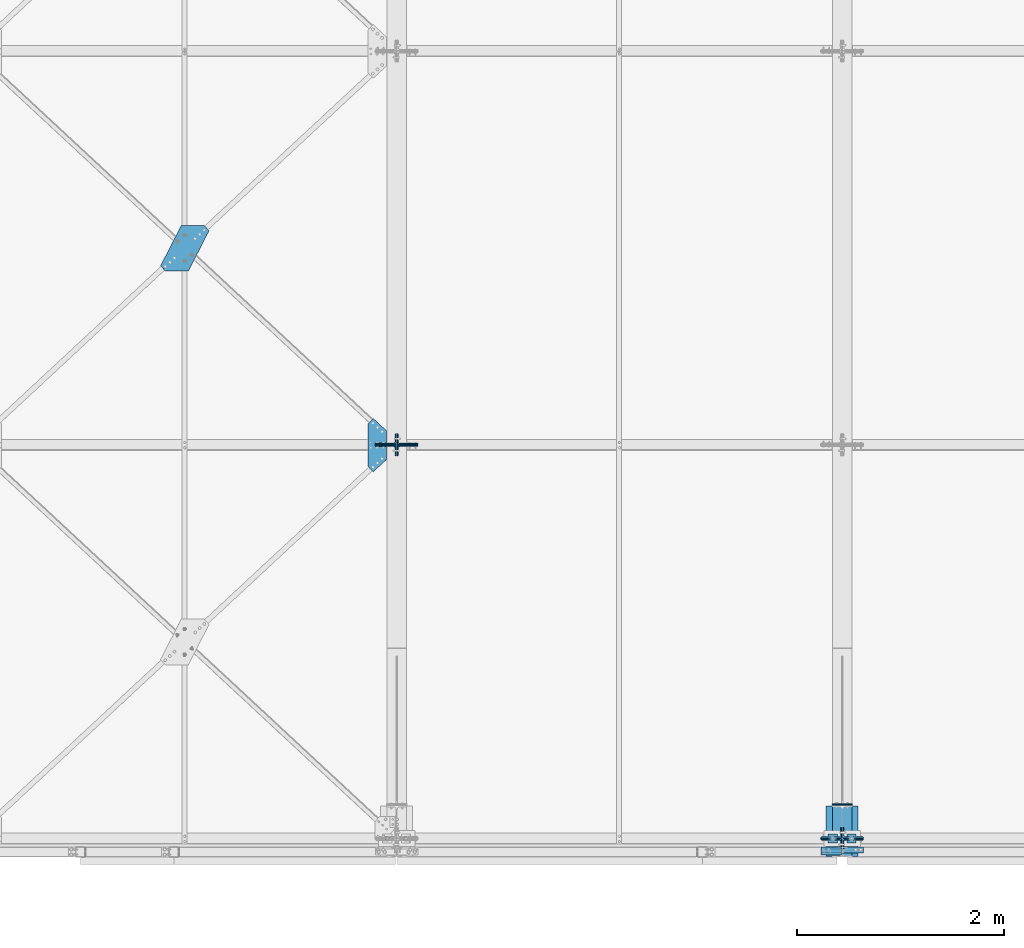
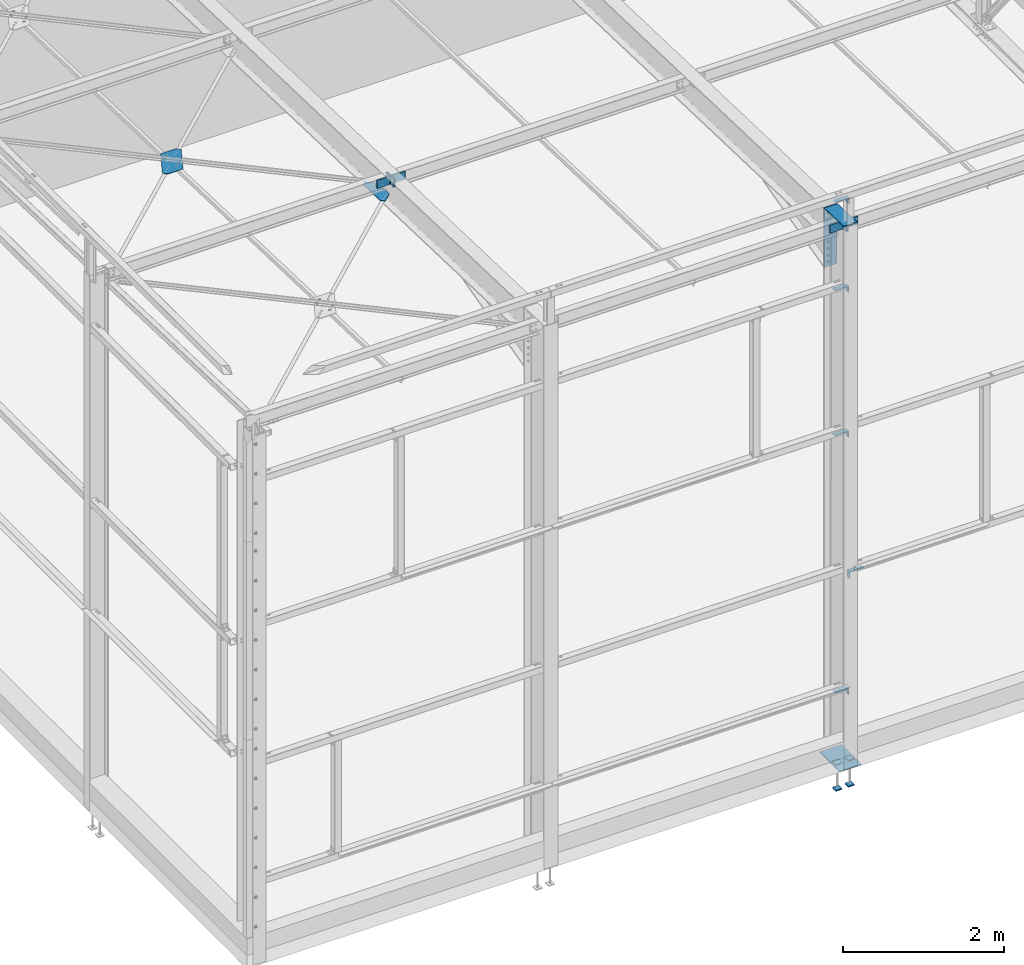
# One storey, part 66 of 362: 14 beams, 8 members, 18 elements without a shape of their own.
"""IFC2X3 building model written with IfcOpenShell, lengths in millimetres."""

from ifc_helpers import new_model, si_unit, frame, origin_with_axes, origin_2d_with_axis, place, context, subcontext, project, spatial, polyline, rectangle, l_section, outline, extrude, material, type_object, element, aggregate, save


model = new_model("IFC2X3")

# Units and contexts
model_context = context("Model", 3, precision=1e-05, world=origin_with_axes())
body_context = subcontext(model_context, "Body", "Model", "MODEL_VIEW")
ifc_project = project(units=[si_unit("LENGTHUNIT", "METRE", prefix="MILLI"), si_unit("AREAUNIT", "SQUARE_METRE"), si_unit("VOLUMEUNIT", "CUBIC_METRE"), si_unit("MASSUNIT", "GRAM", prefix="KILO"), si_unit("TIMEUNIT", "SECOND"), si_unit("PLANEANGLEUNIT", "RADIAN"), si_unit("SOLIDANGLEUNIT", "STERADIAN"), si_unit("THERMODYNAMICTEMPERATUREUNIT", "DEGREE_CELSIUS"), si_unit("LUMINOUSINTENSITYUNIT", "LUMEN")], contexts=[model_context])

# Site, building, storey
site_placement = place(None, origin_with_axes())
site = spatial("IfcSite", under=ifc_project, at=site_placement, Name="Undefined", CompositionType="ELEMENT")
building_placement = place(site_placement, origin_with_axes())
building = spatial("IfcBuilding", under=site, at=building_placement, Name="Undefined", CompositionType="ELEMENT")
storey_placement = place(building_placement, origin_with_axes())
storey = spatial("IfcBuildingStorey", under=building, at=storey_placement, Name="Undefined", CompositionType="ELEMENT", Elevation=0.0)

# Assembly, beam
assembly_1_placement = place(storey_placement, origin_with_axes())
assembly_1 = element("IfcElementAssembly", 1, at=assembly_1_placement, inside=storey, AssemblyPlace="NOTDEFINED", PredefinedType="NOTDEFINED")
ifc_material = material(Name="Undefined/S235-E24")
beam_type_1 = type_object("IfcBeamType", Name="TOLE6*262", PredefinedType="NOTDEFINED")
beam_1_placement = place(assembly_1_placement, frame((2321.30220508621, 5917.61921112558, 7660.93528911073), z_axis=(7.58071938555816e-11, 0.0314107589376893, 0.999506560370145), x_axis=(-1.0, 0.0, 0.0)))
beam_1 = element("IfcBeam", 2, at=beam_1_placement, type_object=beam_type_1, material=ifc_material, Name="GOUSSET", ObjectType="TOLE6*262", context=body_context, shape_type="SweptSolid", body=[
    extrude(outline(polyline([(0.0, 0.0), (219.999999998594, -9.93168214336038e-10), (420.263031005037, 390.657226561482), (372.604370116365, 441.927673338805), (152.604415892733, 441.927612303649), (-47.6586227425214, 51.2704162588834), (0.0, 0.0)])), frame((0.0, 0.0, -3.0), z_axis=(0.0, 0.0, 1.0), x_axis=(1.0, 0.0, 0.0)), (0.0, 0.0, 1.0), 6.0),
])
aggregate(assembly_1, [beam_1])

assembly_2_placement = place(storey_placement, origin_with_axes())
assembly_2 = element("IfcElementAssembly", 3, at=assembly_2_placement, inside=storey, AssemblyPlace="NOTDEFINED", PredefinedType="NOTDEFINED")
beam_type_2 = type_object("IfcBeamType", Name="TOLE6*175", PredefinedType="NOTDEFINED")
beam_2_placement = place(assembly_2_placement, frame((4079.9999991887, 3937.44549905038, 7723.16566508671), z_axis=(7.58071938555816e-11, 0.0314107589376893, 0.999506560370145), x_axis=(-0.732435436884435, 0.680500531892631, -0.0213859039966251)))
beam_2 = element("IfcBeam", 4, at=beam_2_placement, type_object=beam_type_2, material=ifc_material, Name="GOUSSET", ObjectType="TOLE6*175", context=body_context, shape_type="SweptSolid", body=[
    extrude(outline(polyline([(0.0, 0.0), (173.394775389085, 6.18456397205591e-11), (173.394851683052, 70.0000076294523), (-109.185874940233, 373.996124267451), (-178.999526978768, 379.100585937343), (-191.643585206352, 206.167785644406), (0.0, 0.0)])), frame((0.0, 0.0, -3.0), z_axis=(0.0, 0.0, 1.0), x_axis=(1.0, 0.0, 0.0)), (0.0, 0.0, 1.0), 6.0),
])
aggregate(assembly_2, [beam_2])

# Assembly, member
assembly_3_placement = place(storey_placement, origin_with_axes())
assembly_3 = element("IfcElementAssembly", 5, at=assembly_3_placement, inside=storey, AssemblyPlace="NOTDEFINED", PredefinedType="NOTDEFINED")
member_type = type_object("IfcMemberType", Name="L200*100*10", PredefinedType="NOTDEFINED")
member_1_placement = place(assembly_3_placement, frame((8375.00000000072, 54.8594764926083, 8008.2578980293), z_axis=(-1.0, 0.0, 0.0), x_axis=(-1.05403257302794e-09, -0.0314112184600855, -0.999506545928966)))
member_1 = element("IfcMember", 6, at=member_1_placement, type_object=member_type, material=ifc_material, Name="ATTACHE", ObjectType="L200*100*10", context=body_context, shape_type="SweptSolid", body=[
    extrude(l_section(Depth=200.0, Width=100.0, Thickness=10.0, FilletRadius=15.0, EdgeRadius=7.5, at=origin_2d_with_axis()), frame((120.0, 0.0, 0.0), z_axis=(-1.0, 0.0, 0.0), x_axis=(0.0, -1.0, 0.0)), (0.0, 0.0, 1.0), 120.0),
])
aggregate(assembly_3, [member_1])

assembly_4_placement = place(storey_placement, origin_with_axes())
assembly_4 = element("IfcElementAssembly", 7, at=assembly_4_placement, inside=storey, AssemblyPlace="NOTDEFINED", PredefinedType="NOTDEFINED")
member_2_placement = place(assembly_4_placement, frame((8585.00000000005, 51.0901303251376, 7888.31711251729), z_axis=(1.0, 0.0, 0.0), x_axis=(7.58071938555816e-11, 0.0314107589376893, 0.999506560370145)))
member_2 = element("IfcMember", 8, at=member_2_placement, type_object=member_type, material=ifc_material, Name="ATTACHE", ObjectType="L200*100*10", context=body_context, shape_type="SweptSolid", body=[
    extrude(l_section(Depth=200.0, Width=100.0, Thickness=10.0, FilletRadius=15.0, EdgeRadius=7.5, at=origin_2d_with_axis()), frame((120.0, 0.0, 0.0), z_axis=(-1.0, 0.0, 0.0), x_axis=(0.0, -1.0, 0.0)), (0.0, 0.0, 1.0), 120.0),
])
aggregate(assembly_4, [member_2])

assembly_5_placement = place(storey_placement, origin_with_axes())
assembly_5 = element("IfcElementAssembly", 9, at=assembly_5_placement, inside=storey, AssemblyPlace="NOTDEFINED", PredefinedType="NOTDEFINED")
member_3_placement = place(assembly_5_placement, frame((8375.00000000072, -54.8584254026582, 7891.64672871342), z_axis=(-1.0, 0.0, 0.0), x_axis=(7.58071938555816e-11, 0.0314107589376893, 0.999506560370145)))
member_3 = element("IfcMember", 10, at=member_3_placement, type_object=member_type, material=ifc_material, Name="ATTACHE", ObjectType="L200*100*10", context=body_context, shape_type="SweptSolid", body=[
    extrude(l_section(Depth=200.0, Width=100.0, Thickness=10.0, FilletRadius=15.0, EdgeRadius=7.5, at=origin_2d_with_axis()), frame((120.0, 0.0, 0.0), z_axis=(-1.0, 0.0, 0.0), x_axis=(0.0, -1.0, 0.0)), (0.0, 0.0, 1.0), 120.0),
])
aggregate(assembly_5, [member_3])

assembly_6_placement = place(storey_placement, origin_with_axes())
assembly_6 = element("IfcElementAssembly", 11, at=assembly_6_placement, inside=storey, AssemblyPlace="NOTDEFINED", PredefinedType="NOTDEFINED")
member_4_placement = place(assembly_6_placement, frame((8585.00000000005, -51.0890792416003, 8011.58751422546), z_axis=(1.0, 0.0, 0.0), x_axis=(-1.05403257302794e-09, -0.0314112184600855, -0.999506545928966)))
member_4 = element("IfcMember", 12, at=member_4_placement, type_object=member_type, material=ifc_material, Name="ATTACHE", ObjectType="L200*100*10", context=body_context, shape_type="SweptSolid", body=[
    extrude(l_section(Depth=200.0, Width=100.0, Thickness=10.0, FilletRadius=15.0, EdgeRadius=7.5, at=origin_2d_with_axis()), frame((120.0, 0.0, 0.0), z_axis=(-1.0, 0.0, 0.0), x_axis=(0.0, -1.0, 0.0)), (0.0, 0.0, 1.0), 120.0),
])
aggregate(assembly_6, [member_4])

assembly_7_placement = place(storey_placement, origin_with_axes())
assembly_7 = element("IfcElementAssembly", 13, at=assembly_7_placement, inside=storey, AssemblyPlace="NOTDEFINED", PredefinedType="NOTDEFINED")
member_5_placement = place(assembly_7_placement, frame((4075.00000000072, 3854.86494416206, 7888.83616865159), z_axis=(-1.0, 0.0, 0.0), x_axis=(-1.05403257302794e-09, -0.0314112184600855, -0.999506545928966)))
member_5 = element("IfcMember", 14, at=member_5_placement, type_object=member_type, material=ifc_material, Name="ATTACHE", ObjectType="L200*100*10", context=body_context, shape_type="SweptSolid", body=[
    extrude(l_section(Depth=200.0, Width=100.0, Thickness=10.0, FilletRadius=15.0, EdgeRadius=7.5, at=origin_2d_with_axis()), frame((120.0, 0.0, 0.0), z_axis=(-1.0, 0.0, 0.0), x_axis=(0.0, -1.0, 0.0)), (0.0, 0.0, 1.0), 120.0),
])
aggregate(assembly_7, [member_5])

assembly_8_placement = place(storey_placement, origin_with_axes())
assembly_8 = element("IfcElementAssembly", 15, at=assembly_8_placement, inside=storey, AssemblyPlace="NOTDEFINED", PredefinedType="NOTDEFINED")
member_6_placement = place(assembly_8_placement, frame((4285.00000000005, 3851.09559799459, 7768.8953831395), z_axis=(1.0, 0.0, 0.0), x_axis=(7.58071938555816e-11, 0.0314107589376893, 0.999506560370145)))
member_6 = element("IfcMember", 16, at=member_6_placement, type_object=member_type, material=ifc_material, Name="ATTACHE", ObjectType="L200*100*10", context=body_context, shape_type="SweptSolid", body=[
    extrude(l_section(Depth=200.0, Width=100.0, Thickness=10.0, FilletRadius=15.0, EdgeRadius=7.5, at=origin_2d_with_axis()), frame((120.0, 0.0, 0.0), z_axis=(-1.0, 0.0, 0.0), x_axis=(0.0, -1.0, 0.0)), (0.0, 0.0, 1.0), 120.0),
])
aggregate(assembly_8, [member_6])

assembly_9_placement = place(storey_placement, origin_with_axes())
assembly_9 = element("IfcElementAssembly", 17, at=assembly_9_placement, inside=storey, AssemblyPlace="NOTDEFINED", PredefinedType="NOTDEFINED")
member_7_placement = place(assembly_9_placement, frame((4075.00000000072, 3745.14704226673, 7772.22499933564), z_axis=(-1.0, 0.0, 0.0), x_axis=(7.58071938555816e-11, 0.0314107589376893, 0.999506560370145)))
member_7 = element("IfcMember", 18, at=member_7_placement, type_object=member_type, material=ifc_material, Name="ATTACHE", ObjectType="L200*100*10", context=body_context, shape_type="SweptSolid", body=[
    extrude(l_section(Depth=200.0, Width=100.0, Thickness=10.0, FilletRadius=15.0, EdgeRadius=7.5, at=origin_2d_with_axis()), frame((120.0, 0.0, 0.0), z_axis=(-1.0, 0.0, 0.0), x_axis=(0.0, -1.0, 0.0)), (0.0, 0.0, 1.0), 120.0),
])
aggregate(assembly_9, [member_7])

assembly_10_placement = place(storey_placement, origin_with_axes())
assembly_10 = element("IfcElementAssembly", 19, at=assembly_10_placement, inside=storey, AssemblyPlace="NOTDEFINED", PredefinedType="NOTDEFINED")
member_8_placement = place(assembly_10_placement, frame((4285.00000000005, 3748.91638842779, 7892.16578484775), z_axis=(1.0, 0.0, 0.0), x_axis=(-1.05403257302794e-09, -0.0314112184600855, -0.999506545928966)))
member_8 = element("IfcMember", 20, at=member_8_placement, type_object=member_type, material=ifc_material, Name="ATTACHE", ObjectType="L200*100*10", context=body_context, shape_type="SweptSolid", body=[
    extrude(l_section(Depth=200.0, Width=100.0, Thickness=10.0, FilletRadius=15.0, EdgeRadius=7.5, at=origin_2d_with_axis()), frame((120.0, 0.0, 0.0), z_axis=(-1.0, 0.0, 0.0), x_axis=(0.0, -1.0, 0.0)), (0.0, 0.0, 1.0), 120.0),
])
aggregate(assembly_10, [member_8])

# Assembly, beam
assembly_11_placement = place(storey_placement, origin_with_axes())
assembly_11 = element("IfcElementAssembly", 21, at=assembly_11_placement, inside=storey, AssemblyPlace="NOTDEFINED", PredefinedType="NOTDEFINED")
beam_type_3 = type_object("IfcBeamType", Name="L200*100*10", PredefinedType="NOTDEFINED")
beam_3_placement = place(assembly_11_placement, frame((8375.00000320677, -100.00000666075, 8400.0), z_axis=(-1.0, 0.0, 0.0), x_axis=(0.0, -1.0, 0.0)))
beam_3 = element("IfcBeam", 22, at=beam_3_placement, type_object=beam_type_3, material=ifc_material, Name="ATTACHE", ObjectType="L200*100*10", context=body_context, shape_type="SweptSolid", body=[
    extrude(l_section(Depth=200.0, Width=100.0, Thickness=10.0, FilletRadius=15.0, EdgeRadius=7.5, at=origin_2d_with_axis()), frame((60.0, 0.0, 0.0), z_axis=(-1.0, 0.0, 0.0), x_axis=(0.0, -1.0, 0.0)), (0.0, 0.0, 1.0), 60.0),
])
aggregate(assembly_11, [beam_3])

assembly_12_placement = place(storey_placement, origin_with_axes())
assembly_12 = element("IfcElementAssembly", 23, at=assembly_12_placement, inside=storey, AssemblyPlace="NOTDEFINED", PredefinedType="NOTDEFINED")
beam_4_placement = place(assembly_12_placement, frame((8374.99999790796, -80.000006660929, 950.0), z_axis=(-1.0, 0.0, 0.0), x_axis=(0.0, -1.0, 0.0)))
beam_4 = element("IfcBeam", 24, at=beam_4_placement, type_object=beam_type_3, material=ifc_material, Name="ATTACHE", ObjectType="L200*100*10", context=body_context, shape_type="SweptSolid", body=[
    extrude(l_section(Depth=200.0, Width=100.0, Thickness=10.0, FilletRadius=15.0, EdgeRadius=7.5, at=origin_2d_with_axis()), frame((60.0, 0.0, 0.0), z_axis=(-1.0, 0.0, 0.0), x_axis=(0.0, -1.0, 0.0)), (0.0, 0.0, 1.0), 60.0),
])
aggregate(assembly_12, [beam_4])

assembly_13_placement = place(storey_placement, origin_with_axes())
assembly_13 = element("IfcElementAssembly", 25, at=assembly_13_placement, inside=storey, AssemblyPlace="NOTDEFINED", PredefinedType="NOTDEFINED")
beam_5_placement = place(assembly_13_placement, frame((8374.99999790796, -80.000006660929, 7050.0), z_axis=(-1.0, 0.0, 0.0), x_axis=(0.0, -1.0, 0.0)))
beam_5 = element("IfcBeam", 26, at=beam_5_placement, type_object=beam_type_3, material=ifc_material, Name="ATTACHE", ObjectType="L200*100*10", context=body_context, shape_type="SweptSolid", body=[
    extrude(l_section(Depth=200.0, Width=100.0, Thickness=10.0, FilletRadius=15.0, EdgeRadius=7.5, at=origin_2d_with_axis()), frame((60.0, 0.0, 0.0), z_axis=(-1.0, 0.0, 0.0), x_axis=(0.0, -1.0, 0.0)), (0.0, 0.0, 1.0), 60.0),
])
aggregate(assembly_13, [beam_5])

assembly_14_placement = place(storey_placement, origin_with_axes())
assembly_14 = element("IfcElementAssembly", 27, at=assembly_14_placement, inside=storey, AssemblyPlace="NOTDEFINED", PredefinedType="NOTDEFINED")
beam_6_placement = place(assembly_14_placement, frame((8374.99999790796, -80.000006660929, 4850.0), z_axis=(-1.0, 0.0, 0.0), x_axis=(0.0, -1.0, 0.0)))
beam_6 = element("IfcBeam", 28, at=beam_6_placement, type_object=beam_type_3, material=ifc_material, Name="ATTACHE", ObjectType="L200*100*10", context=body_context, shape_type="SweptSolid", body=[
    extrude(l_section(Depth=200.0, Width=100.0, Thickness=10.0, FilletRadius=15.0, EdgeRadius=7.5, at=origin_2d_with_axis()), frame((60.0, 0.0, 0.0), z_axis=(-1.0, 0.0, 0.0), x_axis=(0.0, -1.0, 0.0)), (0.0, 0.0, 1.0), 60.0),
])
aggregate(assembly_14, [beam_6])

assembly_15_placement = place(storey_placement, origin_with_axes())
assembly_15 = element("IfcElementAssembly", 29, at=assembly_15_placement, inside=storey, AssemblyPlace="NOTDEFINED", PredefinedType="NOTDEFINED")
beam_7_placement = place(assembly_15_placement, frame((8584.99999778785, -140.000007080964, 2710.0), z_axis=(1.0, 0.0, 0.0), x_axis=(0.0, 1.0, 0.0)))
beam_7 = element("IfcBeam", 30, at=beam_7_placement, type_object=beam_type_3, material=ifc_material, Name="ATTACHE", ObjectType="L200*100*10", context=body_context, shape_type="SweptSolid", body=[
    extrude(l_section(Depth=200.0, Width=100.0, Thickness=10.0, FilletRadius=15.0, EdgeRadius=7.5, at=origin_2d_with_axis()), frame((60.0, 0.0, 0.0), z_axis=(-1.0, 0.0, 0.0), x_axis=(0.0, -1.0, 0.0)), (0.0, 0.0, 1.0), 60.0),
])
aggregate(assembly_15, [beam_7])

assembly_16_placement = place(storey_placement, origin_with_axes())
assembly_16 = element("IfcElementAssembly", 31, at=assembly_16_placement, inside=storey, Name="TRAVERSE", AssemblyPlace="NOTDEFINED", PredefinedType="NOTDEFINED")
beam_type_4 = type_object("IfcBeamType", Name="PL15*190", PredefinedType="NOTDEFINED")
beam_8_placement = place(assembly_16_placement, frame((8480.0, 327.5, 8029.93865805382), z_axis=(1.0, 0.0, 0.0), x_axis=(0.0, 0.0, -1.0)))
beam_8 = element("IfcBeam", 32, at=beam_8_placement, type_object=beam_type_4, material=ifc_material, Name="PLATINE", ObjectType="PL15*190", context=body_context, shape_type="SweptSolid", body=[
    extrude(rectangle(XDim=15.0, YDim=190.0, at=origin_2d_with_axis()), frame((900.000000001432, 9.99200722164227e-14, 0.0), z_axis=(-1.0, 0.0, 0.0), x_axis=(0.0, -1.0, 0.0)), (0.0, 0.0, 1.0), 900.0),
])
aggregate(assembly_16, [beam_8])

# Assembly, beams
assembly_17_placement = place(storey_placement, origin_with_axes())
assembly_17 = element("IfcElementAssembly", 33, at=assembly_17_placement, inside=storey, Name="POTEAU", AssemblyPlace="NOTDEFINED", PredefinedType="NOTDEFINED")
beam_type_5 = type_object("IfcBeamType", Name="PL10*190", PredefinedType="NOTDEFINED")
beam_9_placement = place(assembly_17_placement, frame((8480.0000000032, 312.157053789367, 8035.18760098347), z_axis=(-1.0, 0.0, 0.0), x_axis=(0.0, -0.999506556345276, 0.031410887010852)))
beam_9 = element("IfcBeam", 34, at=beam_9_placement, type_object=beam_type_5, material=ifc_material, Name="COIFFE", ObjectType="PL10*190", context=body_context, shape_type="SweptSolid", body=[
    extrude(rectangle(XDim=10.0, YDim=190.0, at=origin_2d_with_axis()), frame((484.238942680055, 0.0, 0.0), z_axis=(-1.0, 0.0, 0.0), x_axis=(0.0, -1.0, 0.0)), (0.0, 0.0, 1.0), 484.24),
])
beam_type_6 = type_object("IfcBeamType", Name="PL15*490", PredefinedType="NOTDEFINED")
beam_10_placement = place(assembly_17_placement, frame((8634.99715044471, 70.0, -192.5), z_axis=(0.0, -1.0, 0.0), x_axis=(-1.0, 0.0, 0.0)))
beam_10 = element("IfcBeam", 35, at=beam_10_placement, type_object=beam_type_6, material=ifc_material, Name="PLATINE", ObjectType="PL15*490", context=body_context, shape_type="SweptSolid", body=[
    extrude(rectangle(XDim=15.0, YDim=490.0, at=origin_2d_with_axis()), frame((310.0, 0.0, 0.0), z_axis=(-1.0, 0.0, 0.0), x_axis=(0.0, -1.0, 0.0)), (0.0, 0.0, 1.0), 310.0),
])
aggregate(assembly_17, [beam_9, beam_10])

assembly_18_placement = place(storey_placement, origin_with_axes())
assembly_18 = element("IfcElementAssembly", 36, at=assembly_18_placement, inside=storey, Name="PRESCELLEMENT PS24", AssemblyPlace="NOTDEFINED", PredefinedType="NOTDEFINED")
beam_type_7 = type_object("IfcBeamType", Name="PL15*90", PredefinedType="NOTDEFINED")
beam_11_placement = place(assembly_18_placement, frame((8434.99715044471, -45.0, -177.5), z_axis=(0.0, 0.0, 1.0), x_axis=(0.0, 1.0, 0.0)))
beam_11 = element("IfcBeam", 37, at=beam_11_placement, type_object=beam_type_7, material=ifc_material, Name="PLAQUETTE", ObjectType="PL15*90", context=body_context, shape_type="SweptSolid", body=[
    extrude(outline(polyline([(0.0, 0.0), (90.0, 0.0), (90.0, 90.0), (0.0, 90.0), (0.0, 0.0)])), frame((0.0, 0.0, -7.5), z_axis=(0.0, 0.0, 1.0), x_axis=(1.0, 0.0, 0.0)), (0.0, 0.0, 1.0), 15.0),
])
beam_12_placement = place(assembly_18_placement, frame((8614.99715044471, -45.0, -177.5), z_axis=(0.0, 0.0, 1.0), x_axis=(0.0, 1.0, 0.0)))
beam_12 = element("IfcBeam", 38, at=beam_12_placement, type_object=beam_type_7, material=ifc_material, Name="PLAQUETTE", ObjectType="PL15*90", context=body_context, shape_type="SweptSolid", body=[
    extrude(outline(polyline([(0.0, 0.0), (90.0, 0.0), (90.0, 90.0), (0.0, 90.0), (0.0, 0.0)])), frame((0.0, 0.0, -7.5), z_axis=(0.0, 0.0, 1.0), x_axis=(1.0, 0.0, 0.0)), (0.0, 0.0, 1.0), 15.0),
])
beam_13_placement = place(assembly_18_placement, frame((8434.99715044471, -45.0, -572.5), z_axis=(0.0, 0.0, 1.0), x_axis=(0.0, 1.0, 0.0)))
beam_13 = element("IfcBeam", 39, at=beam_13_placement, type_object=beam_type_7, material=ifc_material, Name="PLAQUETTE", ObjectType="PL15*90", context=body_context, shape_type="SweptSolid", body=[
    extrude(outline(polyline([(0.0, 0.0), (90.0, 0.0), (90.0, 90.0), (0.0, 90.0), (0.0, 0.0)])), frame((0.0, 0.0, -7.5), z_axis=(0.0, 0.0, 1.0), x_axis=(1.0, 0.0, 0.0)), (0.0, 0.0, 1.0), 15.0),
])
beam_14_placement = place(assembly_18_placement, frame((8614.99715044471, -45.0, -572.5), z_axis=(0.0, 0.0, 1.0), x_axis=(0.0, 1.0, 0.0)))
beam_14 = element("IfcBeam", 40, at=beam_14_placement, type_object=beam_type_7, material=ifc_material, Name="PLAQUETTE", ObjectType="PL15*90", context=body_context, shape_type="SweptSolid", body=[
    extrude(outline(polyline([(0.0, 0.0), (90.0, 0.0), (90.0, 90.0), (0.0, 90.0), (0.0, 0.0)])), frame((0.0, 0.0, -7.5), z_axis=(0.0, 0.0, 1.0), x_axis=(1.0, 0.0, 0.0)), (0.0, 0.0, 1.0), 15.0),
])
aggregate(assembly_18, [beam_11, beam_12, beam_13, beam_14])

save(model, "model.ifc")
